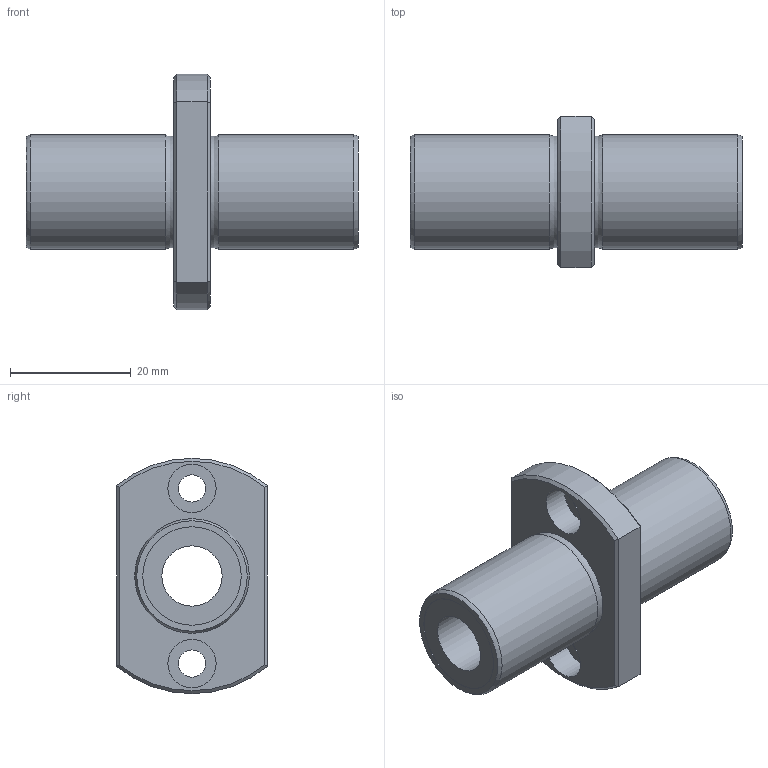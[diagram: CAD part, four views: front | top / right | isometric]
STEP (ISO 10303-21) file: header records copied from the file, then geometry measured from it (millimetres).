
FILE_DESCRIPTION((''),'2;1');
FILE_NAME('D:\製品 (図面)\カタログ用3D\リニアベアリング関連\STEP形式\LFDTC\LFDTC10.stp','2010-06-04T08:39:17',('Tsuchiya'),(''),'Autodesk Inventor 10','Autodesk Inventor 10','');
FILE_SCHEMA(('AUTOMOTIVE_DESIGN { 1 0 10303 214 1 1 1 1 }'));
Length unit declared in the file: millimetre
Products named in the file (1): LFDTC10
Bounding box: 55 x 25 x 39 mm (x, y, z)
Volume: 14402 mm3; surface area: 7121.7 mm2
Topology: 1 solids, 1 shells, 33 faces, 63 edges, 38 vertices
Faces by surface type: plane 14, cylinder 11, cone 4, torus 2, bspline 2
Full cylindrical faces by diameter (mm): 4.5 x2, 8 x2, 10 x1, 16.3 x2, 19 x2
Entity records: 925 total; most frequent: CARTESIAN_POINT 270, DIRECTION 136, ORIENTED_EDGE 100, AXIS2_PLACEMENT_3D 62, EDGE_LOOP 58, EDGE_CURVE 50, VERTEX_POINT 38, FACE_OUTER_BOUND 33
